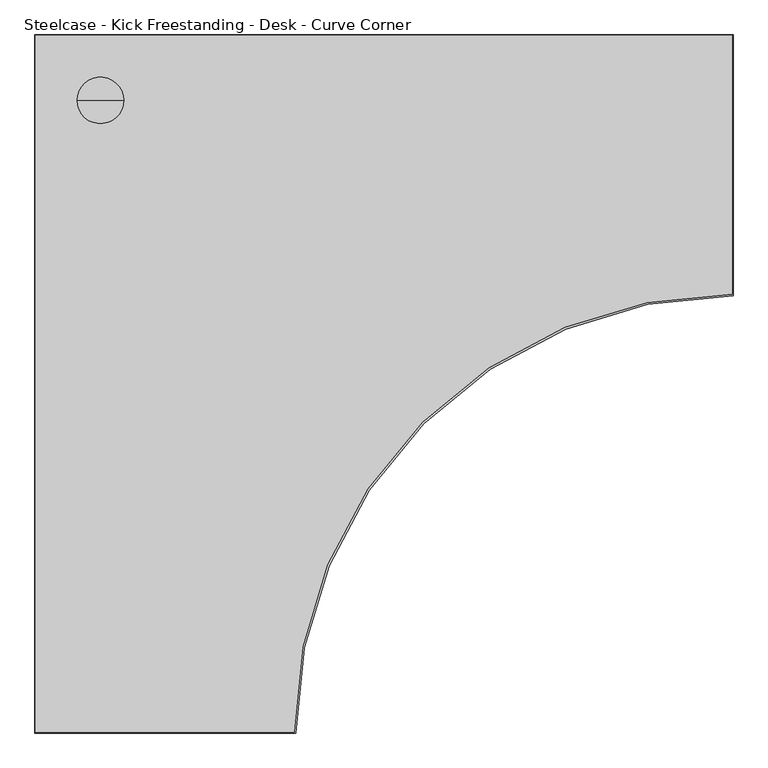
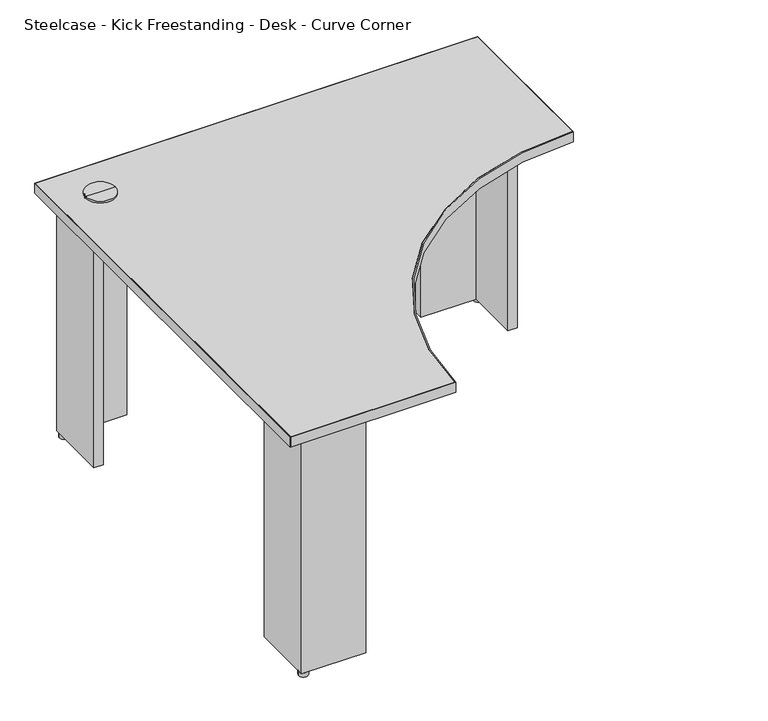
"""IFC4 building model written with IfcOpenShell, lengths in millimetres: furniture geometry, Steelcase - Kick Freestanding - Desk - Curve Corner : 18D x 48W - LPL."""

import ifcopenshell
import ifcopenshell.guid

model = None  # the IFC model being written
_history = None  # IfcOwnerHistory: only IFC2X3 demands one
_inside = {}  # id of a spatial element -> (the spatial element, [elements in it])
_under = {}  # id of a project, library or spatial element -> (it, [spatial elements below it])
_declared = {}  # id of a project -> (the project, [libraries it declares])
_typed = {}  # id of a type object -> (the type object, [elements of that type])
_made_of = {}  # id of a material, layer set ... -> (it, [elements and type objects made of it])


def new_model(schema):
    """Start an empty IFC model of exactly this schema.

    Asked for "IFC4X3", IfcOpenShell would pick the latest addendum, in which some entities
    have other attributes; the version numbers below select the first issue.
    IFC2X3 requires an IfcOwnerHistory on every rooted entity: one is made here for all.
    """
    global model, _history
    if schema == "IFC4X3":
        model = ifcopenshell.file(schema_version=(4, 3, 0, 0))
    else:
        model = ifcopenshell.file(schema=schema)
    _inside.clear()
    _under.clear()
    _declared.clear()
    _typed.clear()
    _made_of.clear()
    _history = None
    if model.schema == "IFC2X3":
        org = make("IfcOrganization", Name="unknown")
        user = make(
            "IfcPersonAndOrganization",
            ThePerson=make("IfcPerson", FamilyName="unknown"),
            TheOrganization=org,
        )
        app = make(
            "IfcApplication",
            ApplicationDeveloper=org,
            Version="unknown",
            ApplicationFullName="unknown",
            ApplicationIdentifier="unknown",
        )
        _history = make(
            "IfcOwnerHistory",
            OwningUser=user,
            OwningApplication=app,
            ChangeAction="ADDED",
            CreationDate=0,
        )
    return model


def make(cls, **values):
    """One entity of the class cls with the attributes given. An attribute that is None is left unset."""
    return model.create_entity(
        cls, **{name: value for name, value in values.items() if value is not None}
    )


def rooted(cls, **values):
    """An entity with a GlobalId (a new one), such as an element, a storey or a relation."""
    return make(cls, GlobalId=ifcopenshell.guid.new(), OwnerHistory=_history, **values)


def si_unit(unit_type, name, prefix=None):
    """IfcSIUnit, for example si_unit("LENGTHUNIT", "METRE", prefix="MILLI")."""
    return make("IfcSIUnit", UnitType=unit_type, Prefix=prefix, Name=name)


def assignment(units):
    """IfcUnitAssignment: the units of a project."""
    return None if units is None else make("IfcUnitAssignment", Units=units)


def point(xyz):
    """IfcCartesianPoint."""
    return None if xyz is None else make("IfcCartesianPoint", Coordinates=xyz)


def direction(xyz):
    """IfcDirection."""
    return None if xyz is None else make("IfcDirection", DirectionRatios=xyz)


def frame(location, z_axis=None, x_axis=None):
    """IfcAxis2Placement3D, a coordinate frame: its origin and axes. An axis left out is left unset."""
    return make(
        "IfcAxis2Placement3D",
        Location=point(location),
        Axis=direction(z_axis),
        RefDirection=direction(x_axis),
    )


def frame_2d(location, x_axis=None):
    """IfcAxis2Placement2D, a coordinate frame in the plane: its origin and x axis."""
    return make(
        "IfcAxis2Placement2D", Location=point(location), RefDirection=direction(x_axis)
    )


def origin():
    """The frame at (0, 0, 0) with its axes left unset."""
    return frame((0.0, 0.0, 0.0))


def origin_with_axes():
    """The frame at (0, 0, 0) with the z axis (0, 0, 1) and the x axis (1, 0, 0) written out."""
    return frame((0.0, 0.0, 0.0), z_axis=(0.0, 0.0, 1.0), x_axis=(1.0, 0.0, 0.0))


def place(relative_to, where):
    """IfcLocalPlacement: puts the frame where relative to a parent placement (None: the world)."""
    return make(
        "IfcLocalPlacement", PlacementRelTo=relative_to, RelativePlacement=where
    )


def context(
    kind, dimensions, precision=None, world=None, true_north=None, identifier=None
):
    """IfcGeometricRepresentationContext, for example the 3D "Model" context."""
    return make(
        "IfcGeometricRepresentationContext",
        ContextIdentifier=identifier,
        ContextType=kind,
        CoordinateSpaceDimension=dimensions,
        Precision=precision,
        WorldCoordinateSystem=world,
        TrueNorth=true_north,
    )


def project(units=None, contexts=None):
    """IfcProject with its units and contexts."""
    return rooted(
        "IfcProject",
        Name="project",
        RepresentationContexts=contexts,
        UnitsInContext=assignment(units),
    )


def spatial(cls, under=None, at=None, **own):
    """A site, building, storey or space (cls), placed at a placement, below another one or the project."""
    s = rooted(cls, ObjectPlacement=at, **own)
    if under is not None:
        _under.setdefault(under.id(), (under, []))[1].append(s)
    return s


def polyline(points):
    """IfcPolyline through the points."""
    return make("IfcPolyline", Points=[point(p) for p in points])


def circle_curve(where, radius):
    """IfcCircle in the frame where."""
    return make("IfcCircle", Position=where, Radius=radius)


def trimmed(basis, trim1, trim2, sense, master):
    """IfcTrimmedCurve: the piece of a basis curve between two trims."""
    return make(
        "IfcTrimmedCurve",
        BasisCurve=basis,
        Trim1=trim1,
        Trim2=trim2,
        SenseAgreement=sense,
        MasterRepresentation=master,
    )


def segment(curve, same_sense, transition):
    """IfcCompositeCurveSegment."""
    return make(
        "IfcCompositeCurveSegment",
        Transition=transition,
        SameSense=same_sense,
        ParentCurve=curve,
    )


def composite_curve(segments, self_intersect=None):
    """IfcCompositeCurve: segments joined end to end."""
    return make("IfcCompositeCurve", Segments=segments, SelfIntersect=self_intersect)


def outline(outer, holes=None, kind="AREA"):
    """IfcArbitraryClosedProfileDef: a profile drawn as a closed curve; with holes, ...WithVoids."""
    if holes is None:
        return make("IfcArbitraryClosedProfileDef", ProfileType=kind, OuterCurve=outer)
    return make(
        "IfcArbitraryProfileDefWithVoids",
        ProfileType=kind,
        OuterCurve=outer,
        InnerCurves=holes,
    )


def extrude(swept, where, along, depth):
    """IfcExtrudedAreaSolid: the profile swept, set in the frame where, extruded along a direction by depth."""
    return make(
        "IfcExtrudedAreaSolid",
        SweptArea=swept,
        Position=where,
        ExtrudedDirection=direction(along),
        Depth=depth,
    )


def shape(context_of_items, identifier, shape_type, items):
    """IfcShapeRepresentation: the items that make up one representation, for example the "Body"."""
    return make(
        "IfcShapeRepresentation",
        ContextOfItems=context_of_items,
        RepresentationIdentifier=identifier,
        RepresentationType=shape_type,
        Items=items,
    )


def source(mapping_origin, context_of_items, identifier, shape_type, items):
    """IfcRepresentationMap: a shape defined once, which mapped items show again and again."""
    return make(
        "IfcRepresentationMap",
        MappingOrigin=mapping_origin,
        MappedRepresentation=shape(context_of_items, identifier, shape_type, items),
    )


def transform(
    local_origin,
    x_axis=None,
    y_axis=None,
    z_axis=None,
    scale=None,
    scale2=None,
    scale3=None,
    uniform=True,
):
    """IfcCartesianTransformationOperator3D, or its non-uniform kind. x_axis, y_axis, z_axis: its Axis1, 2, 3."""
    if uniform:
        return make(
            "IfcCartesianTransformationOperator3D",
            Axis1=direction(x_axis),
            Axis2=direction(y_axis),
            LocalOrigin=point(local_origin),
            Scale=scale,
            Axis3=direction(z_axis),
        )
    return make(
        "IfcCartesianTransformationOperator3DnonUniform",
        Axis1=direction(x_axis),
        Axis2=direction(y_axis),
        LocalOrigin=point(local_origin),
        Scale=scale,
        Axis3=direction(z_axis),
        Scale2=scale2,
        Scale3=scale3,
    )


def mapped(mapping_source, mapping_target):
    """IfcMappedItem: shows the shape of a source again, moved by a transform."""
    return make(
        "IfcMappedItem", MappingSource=mapping_source, MappingTarget=mapping_target
    )


def made_of(thing, what):
    """Note that an element or type object is made of a material, layer set ...; save() writes the relation."""
    if what is not None:
        _made_of.setdefault(what.id(), (what, []))[1].append(thing)
    return thing


def element(
    cls,
    number,
    at=None,
    inside=None,
    cuts=None,
    type_object=None,
    material=None,
    context=None,
    identifier="Body",
    shape_type=None,
    held_by="IfcProductDefinitionShape",
    body=None,
    shapes=None,
    **own,
):
    """One element of the class cls, such as IfcWall. Its Tag is "e" and its number.

    at: its placement. inside: the storey or other place that contains it. cuts: it is an
    opening in that element (IfcRelVoidsElement). A single representation is given by context,
    identifier, shape_type and body (its items); several are given by shapes. held_by: the class
    of the entity that holds the representations. save() writes the other relations.
    """
    e = rooted(cls, Tag="e%d" % number, ObjectPlacement=at, **own)
    if body is not None:
        shapes = [shape(context, identifier, shape_type, body)]
    if shapes is not None:
        e.Representation = make(held_by, Representations=shapes)
    if inside is not None:
        _inside.setdefault(inside.id(), (inside, []))[1].append(e)
    if cuts is not None:
        rooted(
            "IfcRelVoidsElement", RelatingBuildingElement=cuts, RelatedOpeningElement=e
        )
    if type_object is not None:
        _typed.setdefault(type_object.id(), (type_object, []))[1].append(e)
    return made_of(e, material)


def aggregate(whole, parts):
    """IfcRelAggregates: a whole, such as a stair, and the parts it consists of."""
    return rooted("IfcRelAggregates", RelatingObject=whole, RelatedObjects=parts)


def save(model, path):
    """Write the relations noted so far, then the file.

    IfcRelAggregates (storeys below a building ...), IfcRelContainedInSpatialStructure (elements
    in a storey), IfcRelDefinesByType, IfcRelAssociatesMaterial and IfcRelDeclares: one each for
    every whole, place, type object, material and project.
    """
    for whole, parts in _under.values():
        aggregate(whole, parts)
    for where, things in _inside.values():
        rooted(
            "IfcRelContainedInSpatialStructure",
            RelatedElements=things,
            RelatingStructure=where,
        )
    for kind, things in _typed.values():
        rooted("IfcRelDefinesByType", RelatedObjects=things, RelatingType=kind)
    for what, things in _made_of.values():
        rooted("IfcRelAssociatesMaterial", RelatedObjects=things, RelatingMaterial=what)
    for by, libraries in _declared.values():
        rooted("IfcRelDeclares", RelatingContext=by, RelatedDefinitions=libraries)
    model.write(path)


def plane_surface(at):
    """IfcPlane: the flat surface through the origin of the frame at, square to its z axis."""
    return make("IfcPlane", Position=at)


def cylinder_surface(at, radius):
    """IfcCylindricalSurface: all points at the distance radius from the z axis of the frame at."""
    return make("IfcCylindricalSurface", Position=at, Radius=radius)


def advanced_brep(points, edges, surfaces, faces):
    """IfcAdvancedBrep: a solid bounded by faces that lie on surfaces and meet in shared edges.

    An edge is (start, end): straight between two places in points (the first is 0);
    or (start, end, curve); or (start, end, curve, False) where it runs against its curve.
    A face is (place in surfaces, loops), or (place, loops, False) where it looks against
    its surface's normal. A loop lists edges by number (the first is 1), with a minus sign
    where the edge is run from its end to its start. The first loop is the outer one.
    """
    corners = [point(p) for p in points]
    vertices = [make("IfcVertexPoint", VertexGeometry=c) for c in corners]
    made = []
    for start, end, *more in edges:
        made.append(
            make(
                "IfcEdgeCurve",
                EdgeStart=vertices[start],
                EdgeEnd=vertices[end],
                EdgeGeometry=more[0] if more else make("IfcPolyline", Points=[corners[start], corners[end]]),
                SameSense=more[1] if len(more) > 1 else True,
            )
        )
    hull = []
    for where, loops, *sense in faces:
        bounds = []
        for j, loop in enumerate(loops):
            ring = [make("IfcOrientedEdge", EdgeElement=made[abs(k) - 1], Orientation=k > 0) for k in loop]
            bounds.append(
                make(
                    "IfcFaceOuterBound" if j == 0 else "IfcFaceBound",
                    Bound=make("IfcEdgeLoop", EdgeList=ring),
                    Orientation=True,
                )
            )
        hull.append(make("IfcAdvancedFace", Bounds=bounds, FaceSurface=surfaces[where], SameSense=sense[0] if sense else True))
    return make("IfcAdvancedBrep", Outer=make("IfcClosedShell", CfsFaces=hull))


def steelcase_kick_freestanding_desk_curve_corner_e941e2cd(model_context):
    return source(origin(), model_context, "Body", "SolidModel", [
        extrude(outline(polyline([(1026.4393822, -63.5), (1026.4393822, -38.1), (1204.2393579, -38.1), (1204.2393579, -215.8999939), (1178.3313463, -215.8999939), (1178.3313463, -63.5), (1026.4393822, -63.5)])), frame((0.0, 0.0, 12.446), z_axis=(0.0, 0.0, 1.0), x_axis=(1.0, 0.0, 0.0)), (0.0, 0.0, 1.0), 682.498),
        extrude(outline(polyline([(215.8999939, -63.5), (63.5, -63.5), (63.5, -215.8999939), (38.1, -215.8999939), (38.1, -38.1), (215.8999939, -38.1), (215.8999939, -63.5)])), frame((0.0, 0.0, 12.446), z_axis=(0.0, 0.0, 1.0), x_axis=(1.0, 0.0, 0.0)), (0.0, 0.0, 1.0), 682.498),
        advanced_brep(
        [(114.3, -114.3, 728.98), (154.94, -114.3, 728.98), (73.66, -114.3, 728.98), (76.1699693, -114.3, 694.944), (152.4300307, -114.3, 694.944), (114.3, -114.3, 694.944), (76.1699693, -114.3, 723.9), (152.4300307, -114.3, 723.9), (73.66, -114.3, 723.9), (154.94, -114.3, 723.9)],
        [
            (0, 1),
            (1, 2, circle_curve(frame((114.3, -114.3, 728.98), z_axis=(0.0, 0.0, 1.0), x_axis=(1.0, 0.0, 0.0)), 40.64)),
            (2, 0),
            (2, 1, circle_curve(frame((114.3, -114.3, 728.98), z_axis=(0.0, 0.0, 1.0), x_axis=(1.0, 0.0, 0.0)), 40.64)),
            (3, 4, circle_curve(frame((114.3, -114.3, 694.944), z_axis=(0.0, 0.0, -1.0), x_axis=(1.0, 0.0, 0.0)), 38.1300307)),
            (4, 5),
            (5, 3),
            (4, 3, circle_curve(frame((114.3, -114.3, 694.944), z_axis=(0.0, 0.0, -1.0), x_axis=(1.0, 0.0, 0.0)), 38.1300307)),
            (6, 7, circle_curve(frame((114.3, -114.3, 723.9), z_axis=(0.0, 0.0, -1.0), x_axis=(1.0, 0.0, 0.0)), 38.1300307)),
            (7, 4),
            (3, 6),
            (7, 6, circle_curve(frame((114.3, -114.3, 723.9), z_axis=(0.0, 0.0, -1.0), x_axis=(1.0, 0.0, 0.0)), 38.1300307)),
            (8, 9, circle_curve(frame((114.3, -114.3, 723.9), z_axis=(0.0, 0.0, -1.0), x_axis=(1.0, 0.0, 0.0)), 40.64)),
            (9, 7),
            (6, 8),
            (9, 8, circle_curve(frame((114.3, -114.3, 723.9), z_axis=(0.0, 0.0, -1.0), x_axis=(1.0, 0.0, 0.0)), 40.64)),
            (1, 9),
            (8, 2),
        ],
        [
            plane_surface(frame((114.3, -114.3, 728.98), z_axis=(0.0, 0.0, 1.0), x_axis=(1.0, 0.0, 0.0))),
            plane_surface(frame((114.3, -114.3, 694.944), z_axis=(0.0, 0.0, -1.0), x_axis=(1.0, 0.0, 0.0))),
            cylinder_surface(frame((114.3, -114.3, 728.98), z_axis=(0.0, 0.0, 1.0), x_axis=(1.0, 0.0, 0.0)), 38.1300307),
            plane_surface(frame((114.3, -114.3, 723.9), z_axis=(0.0, 0.0, -1.0), x_axis=(1.0, 0.0, 0.0))),
            cylinder_surface(frame((114.3, -114.3, 728.98), z_axis=(0.0, 0.0, 1.0), x_axis=(1.0, 0.0, 0.0)), 40.64),
        ],
        [
            (0, [[1, 2, 3]]),
            (0, [[-3, 4, -1]]),
            (1, [[5, 6, 7]]),
            (1, [[8, -7, -6]]),
            (2, [[9, 10, -5, 11]]),
            (2, [[12, -11, -8, -10]]),
            (3, [[13, 14, -9, 15]]),
            (3, [[16, -15, -12, -14]]),
            (4, [[-2, 17, -13, 18]]),
            (4, [[-4, -18, -16, -17]]),
        ],
    ),
        extrude(outline(composite_curve([segment(trimmed(circle_curve(frame_2d((50.8, -50.8)), 12.7), [point((38.1, -50.8))], [point((63.5, -50.8))], False, "CARTESIAN"), True, "CONTINUOUS"), segment(trimmed(circle_curve(frame_2d((50.8, -50.8)), 12.7), [point((63.5, -50.8))], [point((38.1, -50.8))], False, "CARTESIAN"), True, "CONTINUOUS")], self_intersect=False)), origin_with_axes(), (0.0, 0.0, 1.0), 12.446),
        extrude(outline(composite_curve([segment(trimmed(circle_curve(frame_2d((50.8, -1192.5300073)), 12.7484998), [point((38.0515002, -1192.5300073))], [point((63.5484998, -1192.5300073))], False, "CARTESIAN"), True, "CONTINUOUS"), segment(trimmed(circle_curve(frame_2d((50.8, -1192.5300073)), 12.7484998), [point((63.5484998, -1192.5300073))], [point((38.0515002, -1192.5300073))], False, "CARTESIAN"), True, "CONTINUOUS")], self_intersect=False)), origin_with_axes(), (0.0, 0.0, 1.0), 12.446),
        extrude(outline(composite_curve([segment(trimmed(circle_curve(frame_2d((1191.2853521, -50.8)), 12.7), [point((1178.5853521, -50.8))], [point((1203.9853521, -50.8))], False, "CARTESIAN"), True, "CONTINUOUS"), segment(trimmed(circle_curve(frame_2d((1191.2853521, -50.8)), 12.7), [point((1203.9853521, -50.8))], [point((1178.5853521, -50.8))], False, "CARTESIAN"), True, "CONTINUOUS")], self_intersect=False)), origin_with_axes(), (0.0, 0.0, 1.0), 12.446),
        extrude(outline(polyline([(215.8999939, -1179.8300194), (215.8999939, -1205.2299952), (38.1, -1205.2299952), (38.1, -1027.4300194), (63.5, -1027.4300194), (63.5, -1179.8300194), (215.8999939, -1179.8300194)])), frame((0.0, 0.0, 12.446), z_axis=(0.0, 0.0, 1.0), x_axis=(1.0, 0.0, 0.0)), (0.0, 0.0, 1.0), 682.498),
        extrude(outline(composite_curve([segment(polyline([(0.9906, -1218.2093628), (0.9906, -0.9906), (1218.2093628, -0.9906), (1218.2093628, -452.9354109)]), True, "CONTINUOUS"), segment(trimmed(circle_curve(frame_2d((1216.9393458, -1216.9393458)), 764.0049905), [point((1218.2093628, -452.9354109))], [point((452.9354109, -1218.2093628))], True, "CARTESIAN"), True, "CONTINUOUS"), segment(polyline([(452.9354109, -1218.2093628), (0.9906, -1218.2093628)]), True, "CONTINUOUS")], self_intersect=False)), frame((0.0, 0.0, 694.944), z_axis=(0.0, 0.0, 1.0), x_axis=(1.0, 0.0, 0.0)), (0.0, 0.0, 1.0), 28.956),
        extrude(outline(composite_curve([segment(polyline([(1219.2, 0.0), (1219.2, -455.932629)]), True, "CONTINUOUS"), segment(trimmed(circle_curve(frame_2d((1217.929983, -1217.929983)), 761.9984124), [point((1219.2, -455.932629))], [point((455.932629, -1219.2))], True, "CARTESIAN"), True, "CONTINUOUS"), segment(polyline([(455.932629, -1219.2), (0.0, -1219.2), (0.0, 0.0), (1219.2, 0.0)]), True, "CONTINUOUS")], self_intersect=False), holes=[composite_curve([segment(polyline([(1218.2093628, -0.9906), (0.9906, -0.9906), (0.9906, -1218.2093628), (452.9354109, -1218.2093628)]), True, "CONTINUOUS"), segment(trimmed(circle_curve(frame_2d((1216.9393458, -1216.9393458)), 764.0049905), [point((452.9354109, -1218.2093628))], [point((1218.2093628, -452.9354109))], False, "CARTESIAN"), True, "CONTINUOUS"), segment(polyline([(1218.2093628, -452.9354109), (1218.2093628, -0.9906)]), True, "CONTINUOUS")], self_intersect=False)]), frame((0.0, 0.0, 694.944), z_axis=(0.0, 0.0, 1.0), x_axis=(1.0, 0.0, 0.0)), (0.0, 0.0, 1.0), 28.956),
    ])


if __name__ == "__main__":
    model = new_model("IFC4")
    model_context = context("Model", 3, world=origin())
    ifc_project = project(units=[si_unit("LENGTHUNIT", "METRE", prefix="MILLI")], contexts=[model_context])
    site = spatial("IfcSite", under=ifc_project)
    building = spatial("IfcBuilding", under=site)
    placement = place(None, origin())
    steelcase_kick_freestanding_desk_curve_corner_shape = steelcase_kick_freestanding_desk_curve_corner_e941e2cd(model_context)
    element("IfcFurniture", 1, ObjectType="Steelcase - Kick Freestanding - Desk - Curve Corner : 18D x 48W - LPL", at=placement, inside=building, context=model_context, shape_type="MappedRepresentation", body=[
        mapped(steelcase_kick_freestanding_desk_curve_corner_shape, transform((0.0, 0.0, 0.0), x_axis=(1.0, 0.0, 0.0), y_axis=(0.0, 1.0, 0.0), z_axis=(0.0, 0.0, 1.0))),
    ])
    save(model, "model.ifc")
